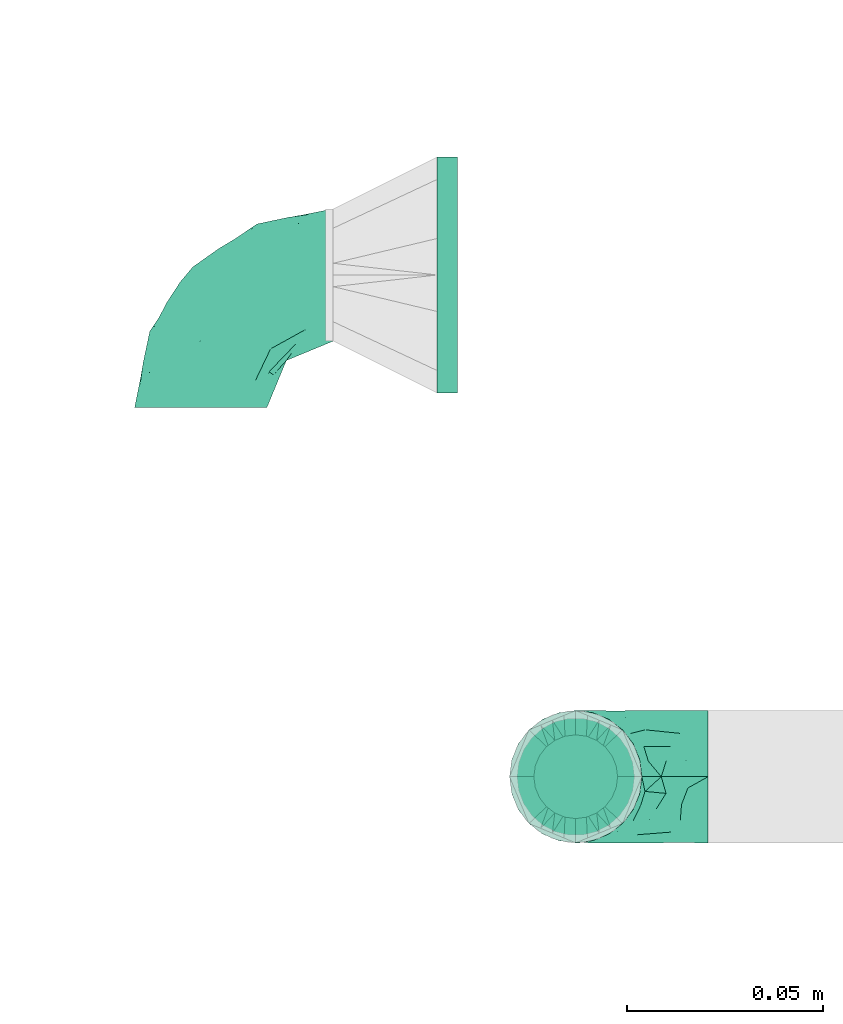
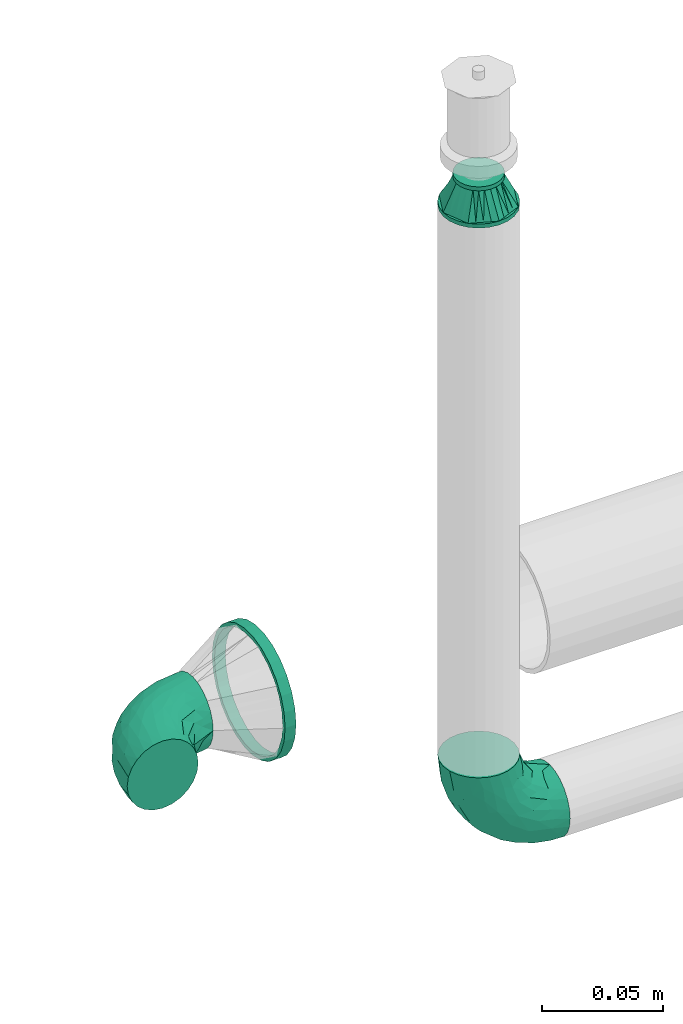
# One storey, part 68 of 157: 3 flow fittings, 1 flow segment.
"""IFC2X3 building model written with IfcOpenShell, lengths in millimetres."""

from ifc_helpers import new_model, entity, si_unit, converted_unit, derived_unit, direction, frame, origin_with_axes, origin_2d_with_axis, place, context, subcontext, project, spatial, hollow_circle, extrude, open_shell, surface_model, source, transform, mapped, type_object, element, save


model = new_model("IFC2X3")

# Units and contexts
model_context = context("Model", 3, precision=0.01, world=frame((0.0, 4.29681676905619e-09, 0.0)), true_north=direction((4.01073788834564e-13, 1.0)))
plan_context = context("Plan", 3, precision=0.01, world=frame((0.0, 4.29681676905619e-09, 0.0)), true_north=direction((4.01073788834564e-13, 1.0)))
body_context = subcontext(model_context, "Body", "Model", "MODEL_VIEW")
ifc_project = project(units=[converted_unit("PLANEANGLEUNIT", "DEGREE", entity("IfcPositiveLengthMeasure", 0.0174532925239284), si_unit("PLANEANGLEUNIT", "RADIAN"), dimensions=[0, 0, 0, 0, 0, 0, 0]), si_unit("AREAUNIT", "SQUARE_METRE"), si_unit("LENGTHUNIT", "METRE", prefix="MILLI"), si_unit("MASSUNIT", "GRAM", prefix="KILO"), si_unit("POWERUNIT", "WATT"), si_unit("PRESSUREUNIT", "PASCAL"), si_unit("FORCEUNIT", "NEWTON", prefix="KILO"), si_unit("ELECTRICCURRENTUNIT", "AMPERE"), si_unit("THERMODYNAMICTEMPERATUREUNIT", "DEGREE_CELSIUS"), si_unit("TIMEUNIT", "SECOND"), si_unit("VOLUMEUNIT", "CUBIC_METRE"), derived_unit("LINEARVELOCITYUNIT", [(si_unit("LENGTHUNIT", "METRE"), 1), (si_unit("TIMEUNIT", "SECOND"), -1)]), derived_unit("VOLUMETRICFLOWRATEUNIT", [(si_unit("VOLUMEUNIT", "CUBIC_METRE"), 1), (si_unit("TIMEUNIT", "SECOND"), -1)]), derived_unit("THERMALTRANSMITTANCEUNIT", [(si_unit("POWERUNIT", "WATT"), 1), (si_unit("THERMODYNAMICTEMPERATUREUNIT", "KELVIN"), -1), (si_unit("AREAUNIT", "SQUARE_METRE"), -1)])], contexts=[model_context, plan_context])

# Site, building, storey
site_placement = place(None, frame((0.0, -4.29681676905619e-09, 0.0), z_axis=(0.0, 0.0, 1.0), x_axis=(1.0, 0.0, 0.0)))
site = spatial("IfcSite", under=ifc_project, at=site_placement, CompositionType="ELEMENT")
building_placement = place(site_placement, frame((0.0, 4.29681676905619e-09, 0.0), z_axis=(0.0, 0.0, 1.0), x_axis=(1.0, 0.0, 0.0)))
building = spatial("IfcBuilding", under=site, at=building_placement, Name="mc-building", CompositionType="ELEMENT")
storey_placement = place(building_placement, frame((0.0, 0.0, 204000.0), z_axis=(0.0, 0.0, 1.0), x_axis=(1.0, 0.0, 0.0)))
storey = spatial("IfcBuildingStorey", under=building, at=storey_placement, Name="Nivå D", CompositionType="ELEMENT", Elevation=204000.0)

# Flow fittings
pipe_fitting_type_1 = type_object("IfcPipeFittingType", Name="magi_pipe_fe_elbow_short_001", PredefinedType="BEND")
shared_shape_1 = source(origin_with_axes(), body_context, "Body", "SurfaceModel", [
    surface_model("IfcShellBasedSurfaceModel", [(-33.8, 8.45, -14.63583), (-33.8, 4.37404, -16.32415), (-33.8, 11.9501, -11.9501), (-33.8, -11.9501, -11.9501), (-33.8, -14.63583, -8.45), (-33.8, -8.45, -14.63583), (-33.8, 0.0, -16.9), (-33.8, -4.37404, -16.32415), (-33.8, -4.37404, 16.32415), (-33.8, 0.0, 16.9), (-33.8, -8.45, 14.63583), (-33.8, 16.32415, -4.37404), (-33.8, 14.63583, -8.45), (-33.8, -16.32415, -4.37404), (-33.8, -16.9, 0.0), (-33.8, -16.32415, 4.37404), (-33.8, 11.9501, 11.9501), (-33.8, 14.63583, 8.45), (-33.8, 16.32415, 4.37404), (-33.8, 4.37404, 16.32415), (-33.8, 8.45, 14.63583), (-33.8, -14.63583, 8.45), (-33.8, -11.9501, 11.9501), (-33.8, 16.9, 0.0), (-11.9501, 33.8, -11.9501), (0.0, 33.8, -16.9), (-4.37404, 33.8, -16.32415), (-8.45, 33.8, -14.63583), (-14.63583, 33.8, -8.45), (-16.32415, 33.8, -4.37404), (14.63583, 33.8, -8.45), (8.45, 33.8, 14.63583), (16.32415, 33.8, -4.37404), (8.45, 33.8, -14.63583), (11.9501, 33.8, -11.9501), (4.37404, 33.8, -16.32415), (16.32415, 33.8, 4.37404), (16.9, 33.8, 0.0), (-11.9501, 33.8, 11.9501), (-16.32415, 33.8, 4.37404), (-14.63583, 33.8, 8.45), (-8.45, 33.8, 14.63583), (-4.37404, 33.8, 16.32415), (11.9501, 33.8, 11.9501), (14.63583, 33.8, 8.45), (0.0, 33.8, 16.9), (4.37404, 33.8, 16.32415), (-16.9, 33.8, 0.0), (-24.79389, -13.12945, 9.48721), (-22.19287, -9.75018, 12.59315), (-24.09897, -14.97035, 0.0), (-14.93934, -10.76256, 8.5297), (-22.46095, -14.75051, 5.27077), (14.75051, 22.46094, 5.27077), (11.9251, 13.23888, 4.33236), (13.04069, 14.39795, 0.0), (7.71387, 13.68847, 11.55891), (9.75018, 22.19287, 12.59315), (4.10169, 13.0571, 14.04018), (-24.84007, -6.39063, 15.2048), (-25.81779, -2.23879, 16.61097), (-23.66549, 2.59054, 16.87119), (-26.50418, 14.06512, 11.08152), (-24.21253, 17.66365, 7.72657), (-29.58514, 15.86957, 7.00283), (-6.17382, -7.5455, 0.0), (-13.23888, -11.9251, 4.33236), (-14.39795, -13.04069, 0.0), (-17.81434, 18.87373, 11.97104), (-6.30846, 29.15138, 15.82987), (-2.31622, 25.28002, 16.85849), (-29.23923, 10.23435, 13.77053), (-1.45439, -2.85688, 7.61475), (-0.28326, 0.34872, 10.09509), (-5.74484, -4.04709, 10.4122), (-4.41137, 11.31918, 16.59407), (-8.39727, 3.10034, 15.7812), (-1.72649, 9.1306, 15.53089), (-17.39909, 24.75344, 7.64977), (-26.19233, 20.0512, 0.0), (-28.14518, 17.29657, 4.25857), (-26.05147, 6.6281, 15.96447), (-5.87354, 16.61944, 16.86968), (-12.51807, 12.51807, 16.48937), (-10.06312, 7.38516, 16.81295), (-3.01882, 3.01882, 13.81718), (-13.0571, -4.10169, 14.04018), (-16.82553, -0.15166, 16.38038), (10.76256, 14.93934, 8.5297), (13.12945, 24.79389, 9.48721), (6.39063, 24.84007, 15.2048), (2.23879, 25.81779, 16.61097), (-13.68847, -7.71387, 11.55891), (14.97035, 24.09897, 0.0), (-7.30894, 22.89991, 16.09489), (-10.67958, 26.17414, 14.008), (-12.78295, 18.26924, 15.06066), (-13.88562, 22.45231, 12.93244), (-18.04944, 15.16501, 14.04434), (-23.11658, 20.08178, 4.02986), (-21.84989, 21.84989, 0.0), (-18.55817, 25.48277, 3.93065), (-13.95142, 26.94732, 11.03289), (-18.57098, 7.23906, 16.59756), (-16.58335, 4.14122, 16.89279), (-17.96666, 11.46709, 15.63151), (-9.84453, 17.54304, 16.18938), (0.15166, 16.82553, 16.38038), (-23.27207, 11.47201, 14.23154), (3.84842, 5.86994, 10.70473), (-8.0212, -7.54413, 7.93275), (1.00345, -2.19508, 4.57414), (5.13203, 3.01004, 5.90201), (5.24161, 1.7543, 2.53265), (8.70457, 7.04947, 3.99182), (-20.0512, 26.19233, 0.0), (8.4852, 8.76699, 7.09296), (-4.55488, -6.72064, 4.90681), (2.05031, -2.05031, 0.0), (7.5455, 6.17382, 0.0), (-26.75399, 2.1369, -16.845), (-14.61995, 24.73803, -11.27736), (-28.45274, -13.45335, -9.81895), (-26.00469, 6.63555, -15.96645), (-23.06726, 20.04573, -4.26202), (-13.80647, -4.26506, -14.17873), (-14.67501, -0.21081, -16.07388), (-6.7902, -0.2828, -13.8478), (-24.53586, 11.08096, -14.13417), (-26.72048, 14.00837, -11.05776), (10.0967, 24.44989, -12.75976), (5.83237, 21.40218, -15.03047), (6.66249, 28.54238, -15.38093), (-20.38182, 15.48705, -12.74596), (12.53268, 21.23441, -9.15363), (12.54494, 15.67504, -5.54878), (9.7522, 12.89279, -8.66343), (-15.65186, 19.64213, -13.01327), (-12.03528, 20.66498, -14.67665), (-15.61907, 15.61906, -14.83879), (-25.56551, -15.26206, 0.0), (-24.65452, -15.12934, -5.50955), (13.45335, 28.45274, -9.81895), (15.12934, 24.65452, -5.50955), (-7.35442, -8.31014, -5.65563), (-15.67504, -12.54494, -5.54878), (-24.44989, -10.0967, -12.75976), (0.16522, 0.41303, -9.71728), (-5.70658, -5.33066, -8.89288), (-5.13869, -2.37198, -11.53565), (-21.23441, -12.53268, -9.15363), (0.71146, 7.93863, -14.09382), (0.21081, 14.67501, -16.07388), (3.49291, 14.42772, -14.76381), (-24.89911, -2.13088, -16.591), (-28.54238, -6.66249, -15.38093), (-18.44386, -7.71663, -13.26957), (2.13088, 24.89911, -16.591), (-28.64342, 17.44413, -2.89318), (1.70017, -1.28722, -5.09504), (-16.57067, 26.81947, -7.36596), (-17.69055, 27.4263, -3.76405), (-12.89279, -9.7522, -8.66343), (-5.96611, 5.96611, -15.95814), (-20.53709, 20.09345, -8.28985), (-2.1369, 26.75399, -16.845), (-6.89872, 24.58781, -16.02578), (-10.60739, 26.53157, -13.98044), (-21.40218, -5.83237, -15.03047), (2.93192, 5.89627, -11.55917), (6.89393, 12.61842, -11.82233), (5.58056, 5.95325, -8.79455), (-3.99512, 18.61798, -16.89635), (8.31014, 7.35442, -5.65563), (-9.1383, 9.86148, -16.89041), (-9.99983, 16.02119, -16.39699), (-16.68576, 9.78031, -16.34199), (-27.01915, 16.61158, -7.12979), (15.26206, 25.56551, 0.0), (-18.61798, 3.99512, -16.89635), (-19.37495, 27.82495, 0.0), (-12.61842, -6.89393, -11.82233), (-18.84705, 19.14018, -10.96545)], [open_shell([[[0, 1, 2]], [[3, 4, 5]], [[6, 7, 5]], [[8, 9, 10]], [[1, 6, 2]], [[11, 12, 2]], [[4, 2, 6]], [[2, 13, 10]], [[5, 4, 6]], [[2, 4, 13]], [[14, 15, 13]], [[11, 2, 16]], [[11, 17, 18]], [[11, 16, 17]], [[19, 20, 16]], [[16, 2, 10]], [[19, 16, 10]], [[21, 22, 15]], [[22, 13, 15]], [[22, 10, 13]], [[10, 9, 19]], [[11, 18, 23]], [[24, 25, 26]], [[24, 26, 27]], [[24, 28, 29]], [[25, 24, 30]], [[31, 32, 24]], [[33, 30, 34]], [[33, 35, 25]], [[25, 30, 33]], [[32, 30, 24]], [[32, 36, 37]], [[38, 24, 29]], [[39, 40, 29]], [[40, 38, 29]], [[38, 41, 42]], [[38, 31, 24]], [[31, 38, 42]], [[36, 43, 44]], [[36, 32, 43]], [[31, 45, 46]], [[32, 31, 43]], [[42, 45, 31]], [[39, 29, 47]], [[22, 48, 49]], [[15, 14, 50]], [[51, 48, 52]], [[53, 54, 55]], [[48, 22, 21]], [[15, 52, 21]], [[56, 57, 58]], [[49, 10, 22]], [[49, 59, 10]], [[9, 60, 61]], [[62, 63, 64]], [[65, 66, 67]], [[57, 43, 31]], [[62, 68, 63]], [[42, 69, 70]], [[20, 71, 16]], [[8, 60, 9]], [[72, 73, 74]], [[75, 76, 77]], [[16, 62, 17]], [[40, 39, 78]], [[79, 23, 80]], [[64, 18, 17]], [[9, 61, 19]], [[19, 81, 20]], [[82, 83, 84]], [[74, 85, 86]], [[59, 86, 87]], [[88, 89, 57]], [[90, 31, 46]], [[44, 53, 36]], [[46, 45, 91]], [[54, 53, 88]], [[44, 89, 53]], [[92, 86, 49]], [[89, 44, 43]], [[10, 59, 8]], [[53, 55, 93]], [[93, 36, 53]], [[66, 52, 67]], [[94, 82, 70]], [[95, 96, 94]], [[97, 98, 96]], [[79, 99, 100]], [[41, 38, 95]], [[101, 100, 99]], [[68, 78, 63]], [[42, 41, 69]], [[23, 18, 80]], [[95, 94, 69]], [[78, 101, 99]], [[38, 102, 95]], [[70, 45, 42]], [[97, 95, 102]], [[15, 50, 52]], [[90, 57, 31]], [[57, 90, 58]], [[81, 19, 61]], [[103, 104, 84]], [[105, 81, 103]], [[38, 40, 102]], [[106, 96, 83]], [[94, 106, 82]], [[91, 70, 107]], [[71, 62, 16]], [[62, 108, 98]], [[86, 59, 49]], [[67, 52, 50]], [[60, 59, 87]], [[92, 49, 51]], [[86, 85, 76]], [[91, 90, 46]], [[37, 36, 93]], [[107, 77, 58]], [[107, 58, 90]], [[58, 85, 109]], [[110, 74, 92]], [[72, 74, 110]], [[66, 51, 52]], [[72, 111, 112]], [[113, 114, 112]], [[56, 88, 57]], [[52, 48, 21]], [[49, 48, 51]], [[57, 89, 43]], [[53, 89, 88]], [[103, 81, 61]], [[71, 81, 108]], [[18, 64, 80]], [[63, 78, 99]], [[47, 115, 101]], [[101, 115, 100]], [[40, 78, 102]], [[68, 102, 78]], [[97, 96, 95]], [[105, 98, 108]], [[103, 84, 83]], [[107, 70, 82]], [[76, 84, 87]], [[82, 84, 75]], [[70, 91, 45]], [[90, 91, 107]], [[59, 60, 8]], [[61, 60, 87]], [[73, 85, 74]], [[109, 112, 116]], [[103, 61, 104]], [[105, 103, 83]], [[96, 105, 83]], [[81, 105, 108]], [[96, 98, 105]], [[62, 98, 68]], [[61, 87, 104]], [[87, 84, 104]], [[86, 76, 87]], [[77, 76, 85]], [[58, 77, 85]], [[75, 77, 107]], [[82, 75, 107]], [[76, 75, 84]], [[81, 71, 20]], [[62, 71, 108]], [[95, 69, 41]], [[70, 69, 94]], [[62, 64, 17]], [[80, 63, 99]], [[63, 80, 64]], [[80, 99, 79]], [[66, 65, 117]], [[110, 66, 117]], [[112, 114, 116]], [[118, 117, 65]], [[110, 92, 51]], [[112, 111, 113]], [[119, 55, 54]], [[74, 86, 92]], [[58, 109, 56]], [[116, 56, 109]], [[66, 110, 51]], [[72, 110, 117]], [[111, 72, 117]], [[73, 112, 109]], [[117, 118, 111]], [[113, 111, 118]], [[118, 119, 113]], [[114, 119, 54]], [[119, 114, 113]], [[116, 54, 88]], [[54, 116, 114]], [[116, 88, 56]], [[112, 73, 72]], [[85, 73, 109]], [[78, 39, 101]], [[47, 101, 39]], [[102, 68, 97]], [[97, 68, 98]], [[82, 106, 83]], [[94, 96, 106]], [[1, 120, 6]], [[28, 24, 121]], [[3, 122, 4]], [[0, 123, 1]], [[100, 124, 79]], [[125, 126, 127]], [[128, 2, 129]], [[130, 131, 132]], [[128, 129, 133]], [[134, 135, 136]], [[137, 138, 139]], [[128, 0, 2]], [[67, 140, 141]], [[134, 142, 143]], [[141, 13, 4]], [[144, 65, 145]], [[146, 3, 5]], [[147, 148, 149]], [[145, 141, 150]], [[151, 152, 153]], [[154, 7, 6]], [[5, 155, 146]], [[150, 146, 156]], [[155, 5, 7]], [[143, 135, 134]], [[35, 157, 25]], [[23, 79, 158]], [[148, 159, 144]], [[160, 161, 29]], [[145, 162, 144]], [[163, 152, 151]], [[29, 28, 160]], [[121, 164, 160]], [[33, 34, 130]], [[25, 165, 26]], [[26, 165, 166]], [[142, 34, 30]], [[24, 27, 167]], [[124, 161, 164]], [[157, 35, 132]], [[155, 154, 168]], [[123, 0, 128]], [[169, 170, 171]], [[172, 157, 152]], [[26, 166, 27]], [[132, 35, 33]], [[142, 130, 34]], [[168, 154, 126]], [[136, 135, 173]], [[133, 137, 139]], [[2, 12, 129]], [[170, 131, 130]], [[30, 32, 143]], [[172, 174, 175]], [[176, 123, 128]], [[158, 177, 11]], [[135, 55, 119]], [[167, 27, 166]], [[175, 166, 172]], [[137, 167, 138]], [[122, 141, 4]], [[140, 14, 13]], [[32, 37, 178]], [[170, 130, 134]], [[152, 157, 131]], [[165, 157, 172]], [[153, 170, 151]], [[152, 163, 174]], [[168, 125, 156]], [[122, 146, 150]], [[120, 154, 6]], [[179, 174, 126]], [[179, 126, 154]], [[126, 163, 127]], [[162, 145, 150]], [[140, 13, 141]], [[32, 178, 143]], [[55, 143, 178]], [[177, 129, 12]], [[128, 133, 139]], [[176, 128, 139]], [[120, 123, 179]], [[121, 160, 28]], [[161, 100, 180]], [[166, 175, 138]], [[121, 24, 167]], [[161, 47, 29]], [[79, 124, 158]], [[124, 164, 177]], [[161, 124, 100]], [[136, 171, 170]], [[127, 163, 151]], [[147, 171, 159]], [[148, 144, 162]], [[127, 151, 169]], [[127, 181, 125]], [[129, 177, 164]], [[12, 11, 177]], [[159, 65, 144]], [[67, 141, 145]], [[143, 55, 135]], [[135, 119, 173]], [[123, 120, 1]], [[154, 120, 179]], [[157, 165, 25]], [[166, 165, 172]], [[172, 152, 174]], [[176, 139, 175]], [[126, 174, 163]], [[176, 174, 179]], [[174, 176, 175]], [[123, 176, 179]], [[150, 181, 162]], [[127, 149, 181]], [[181, 148, 162]], [[159, 148, 147]], [[171, 136, 173]], [[170, 134, 136]], [[159, 171, 173]], [[171, 147, 169]], [[169, 147, 149]], [[151, 170, 169]], [[164, 182, 129]], [[182, 121, 137]], [[181, 149, 148]], [[169, 149, 127]], [[182, 137, 133]], [[167, 137, 121]], [[166, 138, 167]], [[175, 139, 138]], [[129, 182, 133]], [[121, 182, 164]], [[161, 160, 164]], [[47, 161, 180]], [[177, 158, 124]], [[23, 158, 11]], [[130, 132, 33]], [[157, 132, 131]], [[143, 142, 30]], [[130, 142, 134]], [[154, 155, 7]], [[146, 155, 168]], [[146, 122, 3]], [[141, 122, 150]], [[152, 131, 153]], [[159, 119, 118]], [[67, 145, 65]], [[170, 153, 131]], [[119, 159, 173]], [[159, 118, 65]], [[156, 125, 181]], [[126, 125, 168]], [[150, 156, 181]], [[168, 156, 146]]])]),
])
for number, where, z_axis, x_axis, name in (
    (1, (518040.35, 413911.20018, 2690.0), (0.0, 1.0, 0.0), (-1.0, 0.0, 0.0), "magi_pipe_fe_elbow_short_001"),
    (2, (517944.58934, 414039.35389, 2690.0), (0.0, 0.0, 1.0), (-1.0, 0.0, 0.0), "magi_pipe_fe_elbow_short_001"),
):
    element("IfcFlowFitting", number, at=place(storey_placement, frame(where, z_axis=z_axis, x_axis=x_axis)), inside=storey, type_object=pipe_fitting_type_1, Name=name, context=body_context, shape_type="MappedRepresentation", body=[
        mapped(shared_shape_1, transform((0.0, 0.0, 0.0), scale=1.0)),
    ])
pipe_fitting_type_2 = type_object("IfcPipeFittingType", Name="magi_pipe_fe_reducer_centric_short_NOR", PredefinedType="TRANSITION")
shared_shape_2 = source(origin_with_axes(), body_context, "Body", "SurfaceModel", [
    surface_model("IfcShellBasedSurfaceModel", [(-2.0, -7.56604, -7.56604), (-2.0, -10.33541, -2.76936), (-2.0, -5.35, -9.26647), (-2.0, 5.35, -9.26647), (-2.0, 10.33541, -2.76936), (-2.0, 7.56604, -7.56604), (12.4, 11.9501, 11.9501), (12.4, 0.0, 16.9), (12.4, 11.9501, -11.9501), (12.4, 16.9, 0.0), (0.0, -10.7, 0.0), (0.0, -5.35, 9.26647), (0.0, -5.35, -9.26647), (0.0, 10.7, 0.0), (12.4, 15.66253, -2.98753), (12.4, 8.96258, -13.18758), (0.0, 6.6875, -6.94985), (12.4, -15.66253, -2.98753), (12.4, -16.9, 0.0), (12.4, 5.97505, -14.42505), (0.0, 5.35, -9.26647), (12.4, 14.42505, -5.97505), (0.0, 8.025, -4.63324), (0.0, 9.3625, -2.31662), (0.0, -9.3625, -2.31662), (0.0, -8.025, -4.63324), (12.4, -14.42505, -5.97505), (12.4, 13.18758, -8.96258), (12.4, -13.18758, -8.96258), (12.4, -11.9501, -11.9501), (0.0, -6.6875, -6.94985), (12.4, -8.96258, -13.18758), (12.4, -5.97505, -14.42505), (12.4, -15.66253, 2.98753), (12.4, -8.96258, 13.18758), (0.0, -6.6875, 6.94985), (12.4, -11.9501, 11.9501), (12.4, 15.66253, 2.98753), (12.4, -5.97505, 14.42505), (12.4, -14.42505, 5.97505), (0.0, -8.025, 4.63324), (0.0, -9.3625, 2.31662), (0.0, 9.3625, 2.31662), (0.0, 8.025, 4.63324), (12.4, 14.42505, 5.97505), (12.4, -13.18758, 8.96258), (12.4, 13.18758, 8.96258), (0.0, 6.6875, 6.94985), (12.4, 8.96258, 13.18758), (0.0, 5.35, 9.26647), (12.4, 5.97505, 14.42505), (14.4, 4.37404, -16.32415), (14.4, 8.45, -14.63583), (14.4, 11.9501, -11.9501), (14.4, -8.45, -14.63583), (14.4, 16.32415, -4.37404), (14.4, 16.32415, 4.37404), (14.4, 14.63583, -8.45), (14.4, 0.0, -16.9), (14.4, -4.37404, -16.32415), (14.4, -11.9501, -11.9501), (14.4, -16.32415, -4.37404), (14.4, -14.63583, -8.45), (14.4, -16.32415, 4.37404), (14.4, 16.9, 0.0), (14.4, 14.63583, 8.45), (14.4, 11.9501, 11.9501), (14.4, 4.37404, 16.32415), (14.4, 8.45, 14.63583), (14.4, 0.0, 16.9), (14.4, -14.63583, 8.45), (14.4, -16.9, 0.0), (14.4, -8.45, 14.63583), (14.4, -11.9501, 11.9501), (14.4, -4.37404, 16.32415), (12.4, 4.37404, 16.32415), (12.4, -14.63583, 8.45), (12.4, 16.32415, 4.37404), (12.4, 8.45, 14.63583), (12.4, 14.63583, 8.45), (12.4, -8.45, 14.63583), (12.4, -4.37404, 16.32415), (12.4, -16.32415, 4.37404), (12.4, -16.32415, -4.37404), (12.4, -8.45, -14.63583), (12.4, 16.32415, -4.37404), (12.4, 14.63583, -8.45), (12.4, 8.45, -14.63583), (12.4, 4.37404, -16.32415), (12.4, 0.0, -16.9), (12.4, -14.63583, -8.45), (12.4, -4.37404, -16.32415), (-2.0, 2.76936, 10.33541), (-2.0, 0.0, 10.7), (-2.0, 5.35, 9.26647), (-2.0, 7.56604, 7.56604), (-2.0, 9.26647, 5.35), (-2.0, 10.33541, 2.76936), (-2.0, -10.33541, 2.76936), (-2.0, -2.76936, 10.33541), (-2.0, -7.56604, 7.56604), (-2.0, -5.35, 9.26647), (-2.0, -9.26647, 5.35), (-2.0, -10.7, 0.0), (-2.0, 9.26647, -5.35), (-2.0, 2.76936, -10.33541), (-2.0, -9.26647, -5.35), (-2.0, 0.0, -10.7), (-2.0, -2.76936, -10.33541), (-2.0, 10.7, 0.0), (0.0, 0.0, -10.7), (0.0, 2.76936, -10.33541), (0.0, 10.33541, -2.76936), (0.0, 7.56604, -7.56604), (0.0, -10.33541, -2.76936), (0.0, 9.26647, -5.35), (0.0, 0.0, 10.7), (0.0, -2.76936, -10.33541), (0.0, -7.56604, -7.56604), (0.0, -9.26647, -5.35), (0.0, 10.33541, 2.76936), (0.0, 9.26647, 5.35), (0.0, 7.56604, 7.56604), (0.0, 2.76936, 10.33541), (0.0, -7.56604, 7.56604), (0.0, -10.33541, 2.76936), (0.0, -9.26647, 5.35), (0.0, -2.76936, 10.33541), (0.0, 2.675, -9.26647), (0.0, -2.675, -9.26647), (12.4, 2.98753, -15.66253), (0.0, 0.0, -9.26647), (12.4, -2.98753, -15.66253), (0.0, -2.675, 9.26647), (0.0, 2.675, 9.26647), (12.4, -2.98753, 15.66253), (0.0, 0.0, 9.26647), (12.4, 2.98753, 15.66253)], [open_shell([[[0, 1, 2]], [[3, 4, 5]], [[6, 7, 8]], [[8, 9, 6]], [[10, 11, 12]], [[13, 9, 14]], [[15, 16, 8]], [[17, 18, 10]], [[15, 19, 20]], [[21, 22, 23]], [[24, 25, 26]], [[22, 21, 27]], [[28, 26, 25]], [[29, 30, 31]], [[12, 32, 31]], [[10, 18, 33]], [[34, 35, 36]], [[37, 9, 13]], [[34, 38, 11]], [[39, 40, 41]], [[42, 43, 44]], [[40, 39, 45]], [[46, 44, 43]], [[6, 47, 48]], [[49, 50, 48]], [[51, 52, 53]], [[54, 51, 53]], [[53, 55, 56]], [[55, 53, 57]], [[53, 56, 54]], [[58, 54, 59]], [[58, 51, 54]], [[60, 61, 62]], [[61, 60, 54]], [[54, 63, 61]], [[56, 55, 64]], [[56, 65, 66]], [[56, 66, 67]], [[67, 63, 54]], [[67, 66, 68]], [[63, 67, 69]], [[69, 70, 63]], [[71, 61, 63]], [[70, 72, 73]], [[70, 69, 72]], [[72, 69, 74]], [[54, 56, 67]], [[75, 76, 7]], [[77, 75, 78]], [[6, 79, 77]], [[6, 77, 78]], [[76, 75, 77]], [[80, 76, 36]], [[80, 81, 7]], [[7, 76, 80]], [[82, 76, 77]], [[82, 83, 18]], [[82, 77, 84]], [[77, 85, 8]], [[8, 85, 86]], [[8, 87, 88]], [[84, 77, 8]], [[88, 89, 8]], [[83, 29, 90]], [[29, 83, 84]], [[84, 89, 91]], [[83, 82, 84]], [[8, 89, 84]], [[85, 77, 9]], [[83, 61, 18]], [[90, 62, 83]], [[54, 29, 84]], [[90, 29, 60]], [[59, 84, 91]], [[83, 62, 61]], [[61, 71, 18]], [[59, 54, 84]], [[60, 29, 54]], [[60, 62, 90]], [[58, 59, 91]], [[91, 89, 58]], [[88, 51, 89]], [[87, 52, 88]], [[57, 8, 86]], [[87, 8, 53]], [[55, 86, 85]], [[87, 53, 52]], [[52, 51, 88]], [[64, 55, 85]], [[57, 86, 55]], [[57, 53, 8]], [[9, 64, 85]], [[89, 51, 58]], [[77, 56, 9]], [[79, 65, 77]], [[68, 6, 78]], [[79, 6, 66]], [[67, 78, 75]], [[77, 65, 56]], [[56, 64, 9]], [[67, 68, 78]], [[66, 6, 68]], [[66, 65, 79]], [[69, 67, 75]], [[75, 7, 69]], [[81, 74, 7]], [[80, 72, 81]], [[70, 36, 76]], [[80, 36, 73]], [[63, 76, 82]], [[80, 73, 72]], [[72, 74, 81]], [[71, 63, 82]], [[70, 76, 63]], [[70, 73, 36]], [[18, 71, 82]], [[7, 74, 69]], [[92, 1, 93]], [[94, 1, 92]], [[95, 96, 97]], [[95, 97, 94]], [[98, 93, 1]], [[99, 100, 101]], [[99, 93, 100]], [[100, 98, 102]], [[93, 98, 100]], [[98, 1, 103]], [[94, 97, 1]], [[1, 97, 4]], [[5, 4, 104]], [[4, 3, 1]], [[105, 1, 3]], [[1, 0, 106]], [[2, 107, 108]], [[2, 1, 105]], [[105, 107, 2]], [[4, 97, 109]], [[20, 110, 111]], [[112, 20, 113]], [[114, 20, 112]], [[112, 113, 115]], [[116, 114, 112]], [[110, 12, 117]], [[110, 20, 12]], [[118, 114, 119]], [[114, 118, 12]], [[20, 114, 12]], [[112, 13, 120]], [[120, 121, 122]], [[120, 122, 123]], [[116, 112, 123]], [[123, 122, 49]], [[116, 124, 114]], [[125, 124, 126]], [[10, 114, 125]], [[124, 127, 11]], [[125, 114, 124]], [[127, 124, 116]], [[123, 112, 120]], [[1, 114, 103]], [[106, 119, 1]], [[12, 0, 2]], [[106, 0, 118]], [[117, 2, 108]], [[1, 119, 114]], [[114, 10, 103]], [[117, 12, 2]], [[118, 0, 12]], [[118, 119, 106]], [[110, 117, 108]], [[108, 107, 110]], [[105, 111, 107]], [[3, 20, 105]], [[115, 5, 104]], [[3, 5, 113]], [[112, 104, 4]], [[3, 113, 20]], [[20, 111, 105]], [[13, 112, 4]], [[115, 104, 112]], [[115, 113, 5]], [[109, 13, 4]], [[107, 111, 110]], [[97, 120, 109]], [[96, 121, 97]], [[49, 95, 94]], [[96, 95, 122]], [[123, 94, 92]], [[97, 121, 120]], [[120, 13, 109]], [[123, 49, 94]], [[122, 95, 49]], [[122, 121, 96]], [[116, 123, 92]], [[92, 93, 116]], [[99, 127, 93]], [[101, 11, 99]], [[126, 100, 102]], [[101, 100, 124]], [[125, 102, 98]], [[101, 124, 11]], [[11, 127, 99]], [[10, 125, 98]], [[126, 102, 125]], [[126, 124, 100]], [[103, 10, 98]], [[93, 127, 116]], [[18, 7, 36]], [[18, 29, 8]], [[89, 8, 29]], [[18, 8, 7]], [[13, 11, 49]], [[13, 20, 12]], [[13, 12, 11]], [[24, 26, 17]], [[10, 24, 17]], [[16, 15, 20]], [[30, 12, 31]], [[23, 14, 21]], [[19, 128, 20]], [[27, 8, 16]], [[32, 12, 129]], [[30, 28, 25]], [[130, 131, 128]], [[129, 132, 32]], [[16, 22, 27]], [[13, 14, 23]], [[128, 19, 130]], [[130, 89, 131]], [[131, 132, 129]], [[89, 132, 131]], [[28, 30, 29]], [[42, 44, 37]], [[13, 42, 37]], [[35, 34, 11]], [[47, 49, 48]], [[41, 33, 39]], [[38, 133, 11]], [[45, 36, 35]], [[50, 49, 134]], [[47, 46, 43]], [[135, 136, 133]], [[134, 137, 50]], [[35, 40, 45]], [[10, 33, 41]], [[133, 38, 135]], [[135, 7, 136]], [[136, 137, 134]], [[7, 137, 136]], [[46, 47, 6]]])]),
])
flow_fitting_placement = place(storey_placement, frame((518040.35, 413911.20018, 3014.54800000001), z_axis=(0.0, 1.0, 0.0), x_axis=(0.0, 0.0, -1.0)))
element("IfcFlowFitting", 3, at=flow_fitting_placement, inside=storey, type_object=pipe_fitting_type_2, Name="magi_pipe_fe_reducer_centric_short_NOR", context=body_context, shape_type="MappedRepresentation", body=[
    mapped(shared_shape_2, transform((0.0, 0.0, 0.0), scale=1.0)),
])

# Flow segment
pipe_segment_type = type_object("IfcPipeSegmentType", Name="Stålrør normaltykke", PredefinedType="RIGIDSEGMENT")
shared_shape_3 = source(origin_with_axes(), body_context, "Body", "SweptSolid", [
    extrude(hollow_circle(Radius=30.1, WallThickness=2.0, at=origin_2d_with_axis()), frame((0.0, 0.0, 0.0), z_axis=(1.0, 0.0, 0.0), x_axis=(0.0, 1.0, 0.0)), (0.0, 0.0, 1.0), 5.2),
])
flow_segment_placement = place(storey_placement, frame((518010.14672, 414039.35389, 2690.0), z_axis=(0.0, 0.0, 1.0), x_axis=(-1.0, 0.0, 0.0)))
element("IfcFlowSegment", 4, at=flow_segment_placement, inside=storey, type_object=pipe_segment_type, Name="Stålrør normaltykke", context=body_context, shape_type="MappedRepresentation", body=[
    mapped(shared_shape_3, transform((0.0, 0.0, 0.0), scale=1.0)),
])

save(model, "model.ifc")
